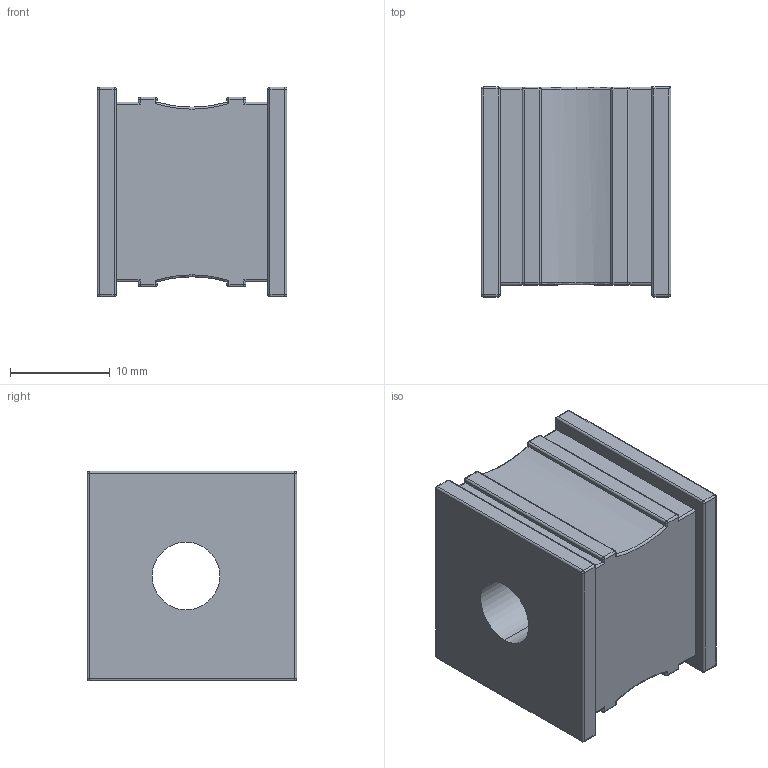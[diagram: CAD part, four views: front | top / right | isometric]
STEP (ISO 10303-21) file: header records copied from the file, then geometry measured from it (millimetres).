
FILE_DESCRIPTION (( 'STEP AP203' ), '1' );
FILE_NAME ('041207 KT7.STEP', '2023-03-07T03:13:38', ( '' ), ( '' ), 'SwSTEP 2.0', 'SolidWorks 2016', '' );
FILE_SCHEMA (( 'CONFIG_CONTROL_DESIGN' ));
Length unit declared in the file: millimetre
Products named in the file (1): 041207 KT7
Bounding box: 19 x 21 x 21 mm (x, y, z)
Volume: 6371.3 mm3; surface area: 2899 mm2
Topology: 1 solids, 1 shells, 157 faces, 376 edges, 193 vertices
Faces by surface type: cylinder 71, plane 33, bspline 28, sphere 17, torus 8
Entity records: 5186 total; most frequent: CARTESIAN_POINT 1869, ORIENTED_EDGE 690, DIRECTION 638, EDGE_CURVE 345, AXIS2_PLACEMENT_3D 237, VERTEX_POINT 193, LINE 164, VECTOR 164
